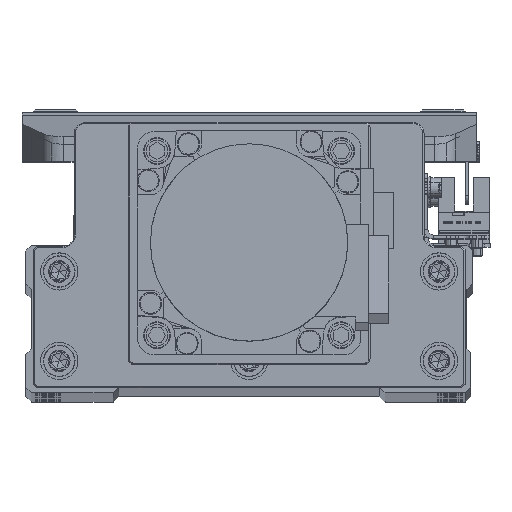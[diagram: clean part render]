
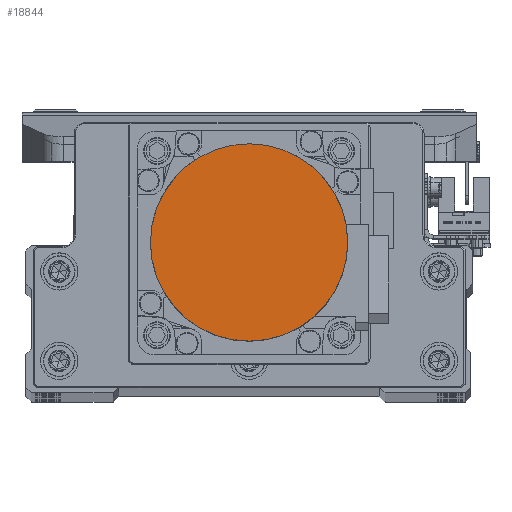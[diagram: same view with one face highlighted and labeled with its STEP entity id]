
A CAD part, top view. The second image highlights one B-rep face of the part: STEP entity #18844.
In plain terms, the highlighted planar face has unit normal (0, 0, 1) as drawn and (0, 0, -1) by its records, which use the part's own axes.
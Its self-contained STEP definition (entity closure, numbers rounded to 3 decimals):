
#1384 = DIRECTION ( 'NONE',  ( -1., 0., 0. ) ) ;
#1485 = CARTESIAN_POINT ( 'NONE',  ( 26.5, 0., -109.7 ) ) ;
#3273 = CARTESIAN_POINT ( 'NONE',  ( 0., 0., -109.7 ) ) ;
#3720 = VERTEX_POINT ( 'NONE', #37981 ) ;
#4475 = CARTESIAN_POINT ( 'NONE',  ( 0., 0., -109.7 ) ) ;
#9223 = EDGE_CURVE ( 'NONE', #23877, #3720, #19711, .T. ) ;
#12785 = ORIENTED_EDGE ( 'NONE', *, *, #26031, .F. ) ;
#18304 = DIRECTION ( 'NONE',  ( 0., 0., 1. ) ) ;
#18844 = ADVANCED_FACE ( 'NONE', ( #21998 ), #37017, .F. ) ;
#19139 = AXIS2_PLACEMENT_3D ( 'NONE', #20110, #35130, #1384 ) ;
#19508 = DIRECTION ( 'NONE',  ( 0., 0., 1. ) ) ;
#19711 = CIRCLE ( 'NONE', #47235, 26.5 ) ;
#20110 = CARTESIAN_POINT ( 'NONE',  ( 0., 0., -109.7 ) ) ;
#20873 = AXIS2_PLACEMENT_3D ( 'NONE', #3273, #18304, #33332 ) ;
#21998 = FACE_OUTER_BOUND ( 'NONE', #46708, .T. ) ;
#22468 = ORIENTED_EDGE ( 'NONE', *, *, #9223, .F. ) ;
#23877 = VERTEX_POINT ( 'NONE', #1485 ) ;
#26031 = EDGE_CURVE ( 'NONE', #3720, #23877, #40347, .T. ) ;
#33332 = DIRECTION ( 'NONE',  ( 1., 0., 0. ) ) ;
#34521 = DIRECTION ( 'NONE',  ( 1., 0., 0. ) ) ;
#35130 = DIRECTION ( 'NONE',  ( 0., 0., 1. ) ) ;
#37017 = PLANE ( 'NONE',  #20873 ) ;
#37981 = CARTESIAN_POINT ( 'NONE',  ( -26.5, 0., -109.7 ) ) ;
#40347 = CIRCLE ( 'NONE', #19139, 26.5 ) ;
#46708 = EDGE_LOOP ( 'NONE', ( #12785, #22468 ) ) ;
#47235 = AXIS2_PLACEMENT_3D ( 'NONE', #4475, #19508, #34521 ) ;
